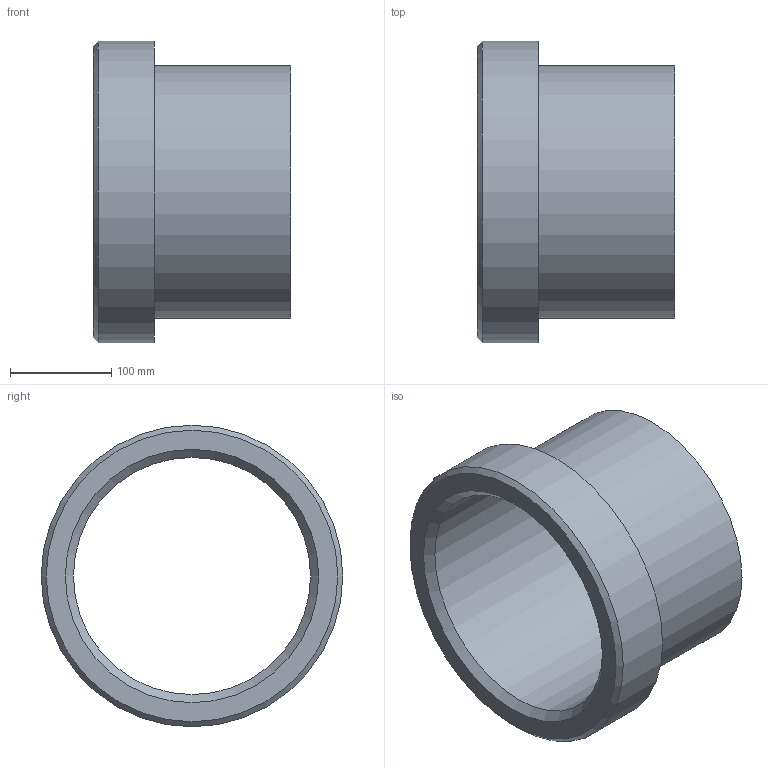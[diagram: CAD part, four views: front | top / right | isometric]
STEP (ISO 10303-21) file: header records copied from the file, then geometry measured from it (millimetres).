
FILE_DESCRIPTION(/* description */ (''),/* implementation_level */ '2;1');
FILE_NAME(/* name */ 'Z:\Geberit\Export\NewStep\371739.stp',/* time_stamp */ '2014-04-02T08:05:45+02:00',/* author */ ('ML'),/* organization */ (''),/* preprocessor_version */ 'ST-DEVELOPER v15.2',/* originating_system */ 'Autodesk Inventor 2014',/* authorisation */ '');
FILE_SCHEMA (('AUTOMOTIVE_DESIGN { 1 0 10303 214 3 1 1 }'));
Length unit declared in the file: millimetre
Products named in the file (1): 371739
Bounding box: 195 x 298 x 298 mm (x, y, z)
Volume: 2361194 mm3; surface area: 352842.3 mm2
Topology: 1 solids, 1 shells, 8 faces, 13 edges, 8 vertices
Faces by surface type: plane 3, cylinder 3, cone 2
Full cylindrical faces by diameter (mm): 234.4 x1, 250 x1, 298 x1
Entity records: 197 total; most frequent: DIRECTION 34, CARTESIAN_POINT 25, AXIS2_PLACEMENT_3D 17, EDGE_LOOP 16, ORIENTED_EDGE 16, FACE_BOUND 11, STYLED_ITEM 9, CIRCLE 8
